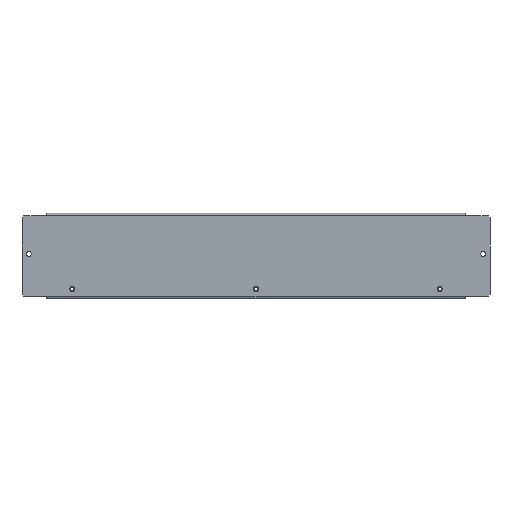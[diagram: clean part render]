
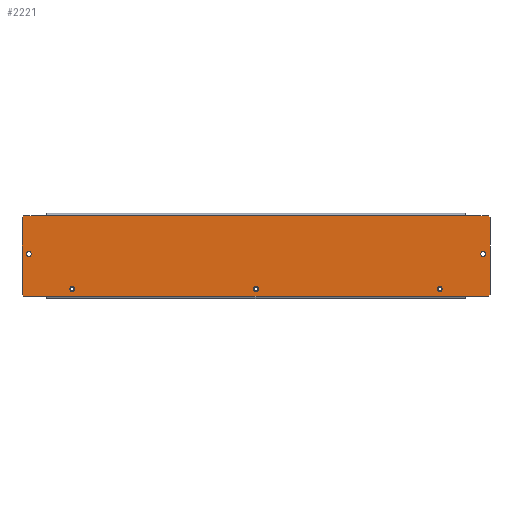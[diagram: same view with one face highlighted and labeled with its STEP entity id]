
A CAD part, top view. The second image highlights one B-rep face of the part: STEP entity #2221.
In plain terms, the highlighted planar face has unit normal (0, 0, 1).
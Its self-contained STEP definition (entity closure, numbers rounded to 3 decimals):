
#326=CARTESIAN_POINT(' ',(-2.75,-38.,0.));
#327=VERTEX_POINT(' ',#326);
#341=CARTESIAN_POINT(' ',(0.,-38.,0.));
#346=DIRECTION(' ',(0.,-0.,1.));
#351=DIRECTION(' ',(-1.,0.,0.));
#356=AXIS2_PLACEMENT_3D(' ',#341,#346,#351);
#361=CIRCLE('',#356,2.75);
#366=CARTESIAN_POINT(' ',(2.75,-38.,0.));
#367=VERTEX_POINT(' ',#366);
#371=EDGE_CURVE(' ',#327,#367,#361,.T.);
#1336=CARTESIAN_POINT(' ',(0.,-38.,0.));
#1341=DIRECTION(' ',(0.,0.,1.));
#1346=DIRECTION(' ',(1.,0.,0.));
#1351=AXIS2_PLACEMENT_3D(' ',#1336,#1341,#1346);
#1356=CIRCLE('',#1351,2.75);
#1361=EDGE_CURVE(' ',#367,#327,#1356,.T.);
#1386=DIRECTION(' ',(-0.,0.,1.));
#1391=CARTESIAN_POINT(' ',(-270.5,-46.5,0.));
#1396=DIRECTION(' ',(1.,0.,0.));
#1401=AXIS2_PLACEMENT_3D(' ',#1391,#1386,#1396);
#1406=PLANE('NONE',#1401);
#1411=CARTESIAN_POINT(' ',(-268.5,-46.5,0.));
#1416=DIRECTION(' ',(1.,0.,0.));
#1421=VECTOR(' ',#1416,1.);
#1426=LINE('',#1411,#1421);
#1431=CARTESIAN_POINT(' ',(-268.5,-46.5,0.));
#1432=VERTEX_POINT(' ',#1431);
#1436=CARTESIAN_POINT(' ',(268.5,-46.5,0.));
#1437=VERTEX_POINT(' ',#1436);
#1441=EDGE_CURVE(' ',#1432,#1437,#1426,.T.);
#1446=ORIENTED_EDGE(' ',*,*,#1441,.T.);
#1451=CARTESIAN_POINT(' ',(268.5,-46.5,0.));
#1456=DIRECTION(' ',(0.707,0.707,0.));
#1461=VECTOR(' ',#1456,1.);
#1466=LINE('',#1451,#1461);
#1471=CARTESIAN_POINT(' ',(270.5,-44.5,0.));
#1472=VERTEX_POINT(' ',#1471);
#1476=EDGE_CURVE(' ',#1437,#1472,#1466,.T.);
#1481=ORIENTED_EDGE(' ',*,*,#1476,.T.);
#1486=CARTESIAN_POINT(' ',(270.5,-44.5,0.));
#1491=DIRECTION(' ',(0.,1.,0.));
#1496=VECTOR(' ',#1491,1.);
#1501=LINE('',#1486,#1496);
#1506=CARTESIAN_POINT(' ',(270.5,44.5,0.));
#1507=VERTEX_POINT(' ',#1506);
#1511=EDGE_CURVE(' ',#1472,#1507,#1501,.T.);
#1516=ORIENTED_EDGE(' ',*,*,#1511,.T.);
#1521=CARTESIAN_POINT(' ',(270.5,44.5,0.));
#1526=DIRECTION(' ',(-0.707,0.707,0.));
#1531=VECTOR(' ',#1526,1.);
#1536=LINE('',#1521,#1531);
#1541=CARTESIAN_POINT(' ',(268.5,46.5,0.));
#1542=VERTEX_POINT(' ',#1541);
#1546=EDGE_CURVE(' ',#1507,#1542,#1536,.T.);
#1551=ORIENTED_EDGE(' ',*,*,#1546,.T.);
#1556=CARTESIAN_POINT(' ',(268.5,46.5,0.));
#1561=DIRECTION(' ',(-1.,0.,0.));
#1566=VECTOR(' ',#1561,1.);
#1571=LINE('',#1556,#1566);
#1576=CARTESIAN_POINT(' ',(242.,46.5,0.));
#1577=VERTEX_POINT(' ',#1576);
#1581=EDGE_CURVE(' ',#1542,#1577,#1571,.T.);
#1586=ORIENTED_EDGE(' ',*,*,#1581,.T.);
#1591=CARTESIAN_POINT(' ',(242.,47.4,0.));
#1596=DIRECTION(' ',(0.,-1.,0.));
#1601=VECTOR(' ',#1596,1.);
#1606=LINE('',#1591,#1601);
#1611=CARTESIAN_POINT(' ',(242.,47.4,0.));
#1612=VERTEX_POINT(' ',#1611);
#1616=EDGE_CURVE(' ',#1612,#1577,#1606,.T.);
#1621=ORIENTED_EDGE(' ',*,*,#1616,.F.);
#1626=CARTESIAN_POINT(' ',(242.,47.4,0.));
#1631=DIRECTION(' ',(-1.,0.,0.));
#1636=VECTOR(' ',#1631,1.);
#1641=LINE('',#1626,#1636);
#1646=CARTESIAN_POINT(' ',(-242.,47.4,0.));
#1647=VERTEX_POINT(' ',#1646);
#1651=EDGE_CURVE(' ',#1612,#1647,#1641,.T.);
#1656=ORIENTED_EDGE(' ',*,*,#1651,.T.);
#1661=CARTESIAN_POINT(' ',(-242.,47.4,0.));
#1666=DIRECTION(' ',(0.,-1.,0.));
#1671=VECTOR(' ',#1666,1.);
#1676=LINE('',#1661,#1671);
#1681=CARTESIAN_POINT(' ',(-242.,46.5,0.));
#1682=VERTEX_POINT(' ',#1681);
#1686=EDGE_CURVE(' ',#1647,#1682,#1676,.T.);
#1691=ORIENTED_EDGE(' ',*,*,#1686,.T.);
#1696=CARTESIAN_POINT(' ',(-242.,46.5,0.));
#1701=DIRECTION(' ',(-1.,0.,0.));
#1706=VECTOR(' ',#1701,1.);
#1711=LINE('',#1696,#1706);
#1716=CARTESIAN_POINT(' ',(-268.5,46.5,0.));
#1717=VERTEX_POINT(' ',#1716);
#1721=EDGE_CURVE(' ',#1682,#1717,#1711,.T.);
#1726=ORIENTED_EDGE(' ',*,*,#1721,.T.);
#1731=CARTESIAN_POINT(' ',(-268.5,46.5,0.));
#1736=DIRECTION(' ',(-0.707,-0.707,0.));
#1741=VECTOR(' ',#1736,1.);
#1746=LINE('',#1731,#1741);
#1751=CARTESIAN_POINT(' ',(-270.5,44.5,0.));
#1752=VERTEX_POINT(' ',#1751);
#1756=EDGE_CURVE(' ',#1717,#1752,#1746,.T.);
#1761=ORIENTED_EDGE(' ',*,*,#1756,.T.);
#1766=CARTESIAN_POINT(' ',(-270.5,44.5,0.));
#1771=DIRECTION(' ',(0.,-1.,0.));
#1776=VECTOR(' ',#1771,1.);
#1781=LINE('',#1766,#1776);
#1786=CARTESIAN_POINT(' ',(-270.5,-44.5,0.));
#1787=VERTEX_POINT(' ',#1786);
#1791=EDGE_CURVE(' ',#1752,#1787,#1781,.T.);
#1796=ORIENTED_EDGE(' ',*,*,#1791,.T.);
#1801=CARTESIAN_POINT(' ',(-270.5,-44.5,0.));
#1806=DIRECTION(' ',(0.707,-0.707,0.));
#1811=VECTOR(' ',#1806,1.);
#1816=LINE('',#1801,#1811);
#1821=EDGE_CURVE(' ',#1787,#1432,#1816,.T.);
#1826=ORIENTED_EDGE(' ',*,*,#1821,.T.);
#1831=EDGE_LOOP(' ',(#1446,#1481,#1516,#1551,#1586,#1621,#1656,#1691,#1726,#1761,#1796,#1826));
#1836=FACE_OUTER_BOUND(' ',#1831,.T.);
#1841=ORIENTED_EDGE(' ',*,*,#1361,.F.);
#1846=ORIENTED_EDGE(' ',*,*,#371,.F.);
#1851=EDGE_LOOP(' ',(#1841,#1846));
#1856=FACE_BOUND(' ',#1851,.T.);
#1861=CARTESIAN_POINT(' ',(-212.5,-38.,0.));
#1866=DIRECTION(' ',(0.,0.,1.));
#1871=DIRECTION(' ',(1.,0.,0.));
#1876=AXIS2_PLACEMENT_3D(' ',#1861,#1866,#1871);
#1881=CIRCLE('',#1876,2.75);
#1886=CARTESIAN_POINT(' ',(-209.75,-38.,0.));
#1887=VERTEX_POINT(' ',#1886);
#1891=CARTESIAN_POINT(' ',(-215.25,-38.,0.));
#1892=VERTEX_POINT(' ',#1891);
#1896=EDGE_CURVE(' ',#1887,#1892,#1881,.T.);
#1901=ORIENTED_EDGE(' ',*,*,#1896,.F.);
#1906=CARTESIAN_POINT(' ',(-212.5,-38.,0.));
#1911=DIRECTION(' ',(0.,-0.,1.));
#1916=DIRECTION(' ',(-1.,0.,0.));
#1921=AXIS2_PLACEMENT_3D(' ',#1906,#1911,#1916);
#1926=CIRCLE('',#1921,2.75);
#1931=EDGE_CURVE(' ',#1892,#1887,#1926,.T.);
#1936=ORIENTED_EDGE(' ',*,*,#1931,.F.);
#1941=EDGE_LOOP(' ',(#1901,#1936));
#1946=FACE_BOUND(' ',#1941,.T.);
#1951=CARTESIAN_POINT(' ',(262.5,2.5,0.));
#1956=DIRECTION(' ',(0.,0.,1.));
#1961=DIRECTION(' ',(1.,0.,0.));
#1966=AXIS2_PLACEMENT_3D(' ',#1951,#1956,#1961);
#1971=CIRCLE('',#1966,2.75);
#1976=CARTESIAN_POINT(' ',(265.25,2.5,0.));
#1977=VERTEX_POINT(' ',#1976);
#1981=CARTESIAN_POINT(' ',(259.75,2.5,0.));
#1982=VERTEX_POINT(' ',#1981);
#1986=EDGE_CURVE(' ',#1977,#1982,#1971,.T.);
#1991=ORIENTED_EDGE(' ',*,*,#1986,.F.);
#1996=CARTESIAN_POINT(' ',(262.5,2.5,0.));
#2001=DIRECTION(' ',(0.,-0.,1.));
#2006=DIRECTION(' ',(-1.,0.,0.));
#2011=AXIS2_PLACEMENT_3D(' ',#1996,#2001,#2006);
#2016=CIRCLE('',#2011,2.75);
#2021=EDGE_CURVE(' ',#1982,#1977,#2016,.T.);
#2026=ORIENTED_EDGE(' ',*,*,#2021,.F.);
#2031=EDGE_LOOP(' ',(#1991,#2026));
#2036=FACE_BOUND(' ',#2031,.T.);
#2041=CARTESIAN_POINT(' ',(-262.5,2.5,0.));
#2046=DIRECTION(' ',(0.,0.,1.));
#2051=DIRECTION(' ',(1.,0.,0.));
#2056=AXIS2_PLACEMENT_3D(' ',#2041,#2046,#2051);
#2061=CIRCLE('',#2056,2.75);
#2066=CARTESIAN_POINT(' ',(-259.75,2.5,0.));
#2067=VERTEX_POINT(' ',#2066);
#2071=CARTESIAN_POINT(' ',(-265.25,2.5,0.));
#2072=VERTEX_POINT(' ',#2071);
#2076=EDGE_CURVE(' ',#2067,#2072,#2061,.T.);
#2081=ORIENTED_EDGE(' ',*,*,#2076,.F.);
#2086=CARTESIAN_POINT(' ',(-262.5,2.5,0.));
#2091=DIRECTION(' ',(0.,-0.,1.));
#2096=DIRECTION(' ',(-1.,0.,0.));
#2101=AXIS2_PLACEMENT_3D(' ',#2086,#2091,#2096);
#2106=CIRCLE('',#2101,2.75);
#2111=EDGE_CURVE(' ',#2072,#2067,#2106,.T.);
#2116=ORIENTED_EDGE(' ',*,*,#2111,.F.);
#2121=EDGE_LOOP(' ',(#2081,#2116));
#2126=FACE_BOUND(' ',#2121,.T.);
#2131=CARTESIAN_POINT(' ',(212.5,-38.,0.));
#2136=DIRECTION(' ',(0.,0.,1.));
#2141=DIRECTION(' ',(1.,0.,0.));
#2146=AXIS2_PLACEMENT_3D(' ',#2131,#2136,#2141);
#2151=CIRCLE('',#2146,2.75);
#2156=CARTESIAN_POINT(' ',(215.25,-38.,0.));
#2157=VERTEX_POINT(' ',#2156);
#2161=CARTESIAN_POINT(' ',(209.75,-38.,0.));
#2162=VERTEX_POINT(' ',#2161);
#2166=EDGE_CURVE(' ',#2157,#2162,#2151,.T.);
#2171=ORIENTED_EDGE(' ',*,*,#2166,.F.);
#2176=CARTESIAN_POINT(' ',(212.5,-38.,0.));
#2181=DIRECTION(' ',(0.,-0.,1.));
#2186=DIRECTION(' ',(-1.,0.,0.));
#2191=AXIS2_PLACEMENT_3D(' ',#2176,#2181,#2186);
#2196=CIRCLE('',#2191,2.75);
#2201=EDGE_CURVE(' ',#2162,#2157,#2196,.T.);
#2206=ORIENTED_EDGE(' ',*,*,#2201,.F.);
#2211=EDGE_LOOP(' ',(#2171,#2206));
#2216=FACE_BOUND(' ',#2211,.T.);
#2221=ADVANCED_FACE('NONE',(#1836,#1856,#1946,#2036,#2126,#2216),#1406,.T.);
